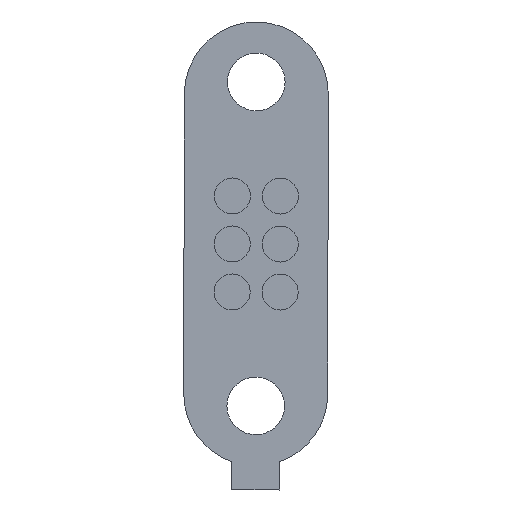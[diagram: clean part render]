
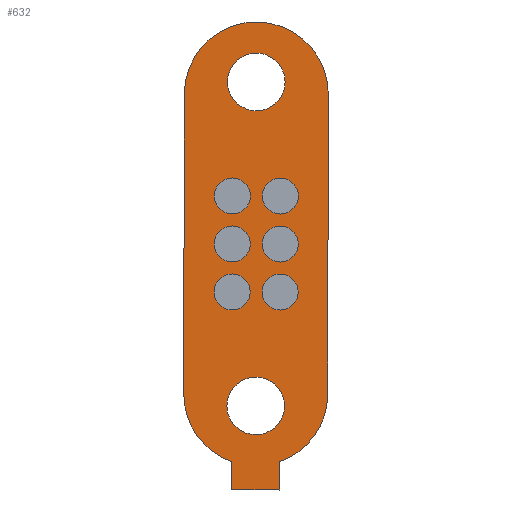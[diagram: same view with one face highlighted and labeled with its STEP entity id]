
A CAD part, left-side view. The second image highlights one B-rep face of the part: STEP entity #632.
In plain terms, the highlighted planar face has unit normal (-1, 0, 0).
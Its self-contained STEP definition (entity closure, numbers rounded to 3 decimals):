
#69=DIRECTION('',(0.,0.002,-1.));
#70=VECTOR('',#69,12.5);
#71=CARTESIAN_POINT('',(-115.498,12.316,200.523));
#72=LINE('',#71,#70);
#73=CARTESIAN_POINT('',(-115.498,9.316,200.517));
#74=DIRECTION('',(1.,0.,0.));
#75=DIRECTION('',(0.,1.,0.002));
#76=AXIS2_PLACEMENT_3D('',#73,#74,#75);
#78=CARTESIAN_POINT('',(-115.498,9.341,188.017));
#79=DIRECTION('',(1.,0.,0.));
#80=DIRECTION('',(0.,-1.,-0.002));
#81=AXIS2_PLACEMENT_3D('',#78,#79,#80);
#83=DIRECTION('',(0.,-0.002,1.));
#84=VECTOR('',#83,1.172);
#85=CARTESIAN_POINT('',(-115.498,10.348,184.019));
#86=LINE('',#85,#84);
#87=CARTESIAN_POINT('',(-115.498,9.341,188.017));
#88=DIRECTION('',(1.,0.,0.));
#89=DIRECTION('',(0.,0.335,-0.942));
#90=AXIS2_PLACEMENT_3D('',#87,#88,#89);
#92=CARTESIAN_POINT('',(-115.498,9.342,187.517));
#93=DIRECTION('',(-1.,0.,0.));
#94=DIRECTION('',(0.,0.002,-1.));
#95=AXIS2_PLACEMENT_3D('',#92,#93,#94);
#97=CARTESIAN_POINT('',(-115.498,9.342,187.517));
#98=DIRECTION('',(-1.,0.,0.));
#99=DIRECTION('',(0.,-0.002,1.));
#100=AXIS2_PLACEMENT_3D('',#97,#98,#99);
#102=CARTESIAN_POINT('',(-115.498,9.315,201.017));
#103=DIRECTION('',(-1.,0.,0.));
#104=DIRECTION('',(0.,0.002,-1.));
#105=AXIS2_PLACEMENT_3D('',#102,#103,#104);
#107=CARTESIAN_POINT('',(-115.498,9.315,201.017));
#108=DIRECTION('',(-1.,0.,0.));
#109=DIRECTION('',(0.,-0.002,1.));
#110=AXIS2_PLACEMENT_3D('',#107,#108,#109);
#112=CARTESIAN_POINT('',(-115.498,8.315,196.267));
#113=DIRECTION('',(-1.,0.,0.));
#114=DIRECTION('',(0.,-1.,0.));
#115=AXIS2_PLACEMENT_3D('',#112,#113,#114);
#117=CARTESIAN_POINT('',(-115.498,8.315,196.267));
#118=DIRECTION('',(-1.,0.,0.));
#119=DIRECTION('',(0.,1.,0.));
#120=AXIS2_PLACEMENT_3D('',#117,#118,#119);
#122=CARTESIAN_POINT('',(-115.498,10.315,196.267));
#123=DIRECTION('',(-1.,0.,0.));
#124=DIRECTION('',(0.,-1.,0.));
#125=AXIS2_PLACEMENT_3D('',#122,#123,#124);
#127=CARTESIAN_POINT('',(-115.498,10.315,196.267));
#128=DIRECTION('',(-1.,0.,0.));
#129=DIRECTION('',(0.,1.,0.));
#130=AXIS2_PLACEMENT_3D('',#127,#128,#129);
#132=CARTESIAN_POINT('',(-115.498,8.315,194.267));
#133=DIRECTION('',(-1.,0.,0.));
#134=DIRECTION('',(0.,-1.,0.));
#135=AXIS2_PLACEMENT_3D('',#132,#133,#134);
#137=CARTESIAN_POINT('',(-115.498,8.315,194.267));
#138=DIRECTION('',(-1.,0.,0.));
#139=DIRECTION('',(0.,1.,0.));
#140=AXIS2_PLACEMENT_3D('',#137,#138,#139);
#142=CARTESIAN_POINT('',(-115.498,10.315,194.267));
#143=DIRECTION('',(-1.,0.,0.));
#144=DIRECTION('',(0.,-1.,0.));
#145=AXIS2_PLACEMENT_3D('',#142,#143,#144);
#147=CARTESIAN_POINT('',(-115.498,10.315,194.267));
#148=DIRECTION('',(-1.,0.,0.));
#149=DIRECTION('',(0.,1.,0.));
#150=AXIS2_PLACEMENT_3D('',#147,#148,#149);
#152=CARTESIAN_POINT('',(-115.498,8.315,192.267));
#153=DIRECTION('',(-1.,0.,0.));
#154=DIRECTION('',(0.,-1.,0.));
#155=AXIS2_PLACEMENT_3D('',#152,#153,#154);
#157=CARTESIAN_POINT('',(-115.498,8.315,192.267));
#158=DIRECTION('',(-1.,0.,0.));
#159=DIRECTION('',(0.,1.,0.));
#160=AXIS2_PLACEMENT_3D('',#157,#158,#159);
#162=CARTESIAN_POINT('',(-115.498,10.315,192.267));
#163=DIRECTION('',(-1.,0.,0.));
#164=DIRECTION('',(0.,-1.,0.));
#165=AXIS2_PLACEMENT_3D('',#162,#163,#164);
#167=CARTESIAN_POINT('',(-115.498,10.315,192.267));
#168=DIRECTION('',(-1.,0.,0.));
#169=DIRECTION('',(0.,1.,0.));
#170=AXIS2_PLACEMENT_3D('',#167,#168,#169);
#207=DIRECTION('',(0.,-0.002,1.));
#208=VECTOR('',#207,12.5);
#209=CARTESIAN_POINT('',(-115.498,6.341,188.011));
#210=LINE('',#209,#208);
#287=DIRECTION('',(0.,-1.,-0.002));
#288=VECTOR('',#287,2.);
#289=CARTESIAN_POINT('',(-115.498,10.348,184.019));
#290=LINE('',#289,#288);
#299=DIRECTION('',(0.,-0.002,1.));
#300=VECTOR('',#299,1.172);
#301=CARTESIAN_POINT('',(-115.498,8.348,184.015));
#302=LINE('',#301,#300);
#407=CARTESIAN_POINT('',(-115.498,12.316,200.523));
#408=CARTESIAN_POINT('',(-115.498,12.341,188.023));
#409=VERTEX_POINT('',#407);
#410=VERTEX_POINT('',#408);
#419=CARTESIAN_POINT('',(-115.498,6.316,200.511));
#420=VERTEX_POINT('',#419);
#421=CARTESIAN_POINT('',(-115.498,6.341,188.011));
#422=VERTEX_POINT('',#421);
#423=CARTESIAN_POINT('',(-115.498,8.346,185.187));
#424=VERTEX_POINT('',#423);
#425=CARTESIAN_POINT('',(-115.498,8.348,184.015));
#426=VERTEX_POINT('',#425);
#427=CARTESIAN_POINT('',(-115.498,10.348,184.019));
#428=VERTEX_POINT('',#427);
#429=CARTESIAN_POINT('',(-115.498,10.346,185.191));
#430=VERTEX_POINT('',#429);
#431=CARTESIAN_POINT('',(-115.498,9.344,186.317));
#432=CARTESIAN_POINT('',(-115.498,9.339,188.717));
#433=VERTEX_POINT('',#431);
#434=VERTEX_POINT('',#432);
#435=CARTESIAN_POINT('',(-115.498,9.318,199.817));
#436=CARTESIAN_POINT('',(-115.498,9.313,202.217));
#437=VERTEX_POINT('',#435);
#438=VERTEX_POINT('',#436);
#439=CARTESIAN_POINT('',(-115.498,7.665,196.267));
#440=CARTESIAN_POINT('',(-115.498,8.965,196.267));
#441=VERTEX_POINT('',#439);
#442=VERTEX_POINT('',#440);
#443=CARTESIAN_POINT('',(-115.498,9.665,196.267));
#444=CARTESIAN_POINT('',(-115.498,10.965,196.267));
#445=VERTEX_POINT('',#443);
#446=VERTEX_POINT('',#444);
#447=CARTESIAN_POINT('',(-115.498,7.665,194.267));
#448=CARTESIAN_POINT('',(-115.498,8.965,194.267));
#449=VERTEX_POINT('',#447);
#450=VERTEX_POINT('',#448);
#451=CARTESIAN_POINT('',(-115.498,9.665,194.267));
#452=CARTESIAN_POINT('',(-115.498,10.965,194.267));
#453=VERTEX_POINT('',#451);
#454=VERTEX_POINT('',#452);
#455=CARTESIAN_POINT('',(-115.498,7.665,192.267));
#456=CARTESIAN_POINT('',(-115.498,8.965,192.267));
#457=VERTEX_POINT('',#455);
#458=VERTEX_POINT('',#456);
#459=CARTESIAN_POINT('',(-115.498,9.665,192.267));
#460=CARTESIAN_POINT('',(-115.498,10.965,192.267));
#461=VERTEX_POINT('',#459);
#462=VERTEX_POINT('',#460);
#562=CARTESIAN_POINT('',(-115.498,9.33,193.767));
#563=DIRECTION('',(1.,0.,0.));
#564=DIRECTION('',(0.,0.002,-1.));
#565=AXIS2_PLACEMENT_3D('',#562,#563,#564);
#566=PLANE('',#565);
#567=ORIENTED_EDGE('',*,*,#544,.F.);
#569=ORIENTED_EDGE('',*,*,#568,.T.);
#571=ORIENTED_EDGE('',*,*,#570,.F.);
#573=ORIENTED_EDGE('',*,*,#572,.T.);
#575=ORIENTED_EDGE('',*,*,#574,.F.);
#577=ORIENTED_EDGE('',*,*,#576,.F.);
#579=ORIENTED_EDGE('',*,*,#578,.T.);
#581=ORIENTED_EDGE('',*,*,#580,.T.);
#582=EDGE_LOOP('',(#567,#569,#571,#573,#575,#577,#579,#581));
#583=FACE_OUTER_BOUND('',#582,.F.);
#585=ORIENTED_EDGE('',*,*,#584,.T.);
#587=ORIENTED_EDGE('',*,*,#586,.T.);
#588=EDGE_LOOP('',(#585,#587));
#589=FACE_BOUND('',#588,.F.);
#591=ORIENTED_EDGE('',*,*,#590,.T.);
#593=ORIENTED_EDGE('',*,*,#592,.T.);
#594=EDGE_LOOP('',(#591,#593));
#595=FACE_BOUND('',#594,.F.);
#597=ORIENTED_EDGE('',*,*,#596,.T.);
#599=ORIENTED_EDGE('',*,*,#598,.T.);
#600=EDGE_LOOP('',(#597,#599));
#601=FACE_BOUND('',#600,.F.);
#603=ORIENTED_EDGE('',*,*,#602,.T.);
#605=ORIENTED_EDGE('',*,*,#604,.T.);
#606=EDGE_LOOP('',(#603,#605));
#607=FACE_BOUND('',#606,.F.);
#609=ORIENTED_EDGE('',*,*,#608,.T.);
#611=ORIENTED_EDGE('',*,*,#610,.T.);
#612=EDGE_LOOP('',(#609,#611));
#613=FACE_BOUND('',#612,.F.);
#615=ORIENTED_EDGE('',*,*,#614,.T.);
#617=ORIENTED_EDGE('',*,*,#616,.T.);
#618=EDGE_LOOP('',(#615,#617));
#619=FACE_BOUND('',#618,.F.);
#621=ORIENTED_EDGE('',*,*,#620,.T.);
#623=ORIENTED_EDGE('',*,*,#622,.T.);
#624=EDGE_LOOP('',(#621,#623));
#625=FACE_BOUND('',#624,.F.);
#627=ORIENTED_EDGE('',*,*,#626,.T.);
#629=ORIENTED_EDGE('',*,*,#628,.T.);
#630=EDGE_LOOP('',(#627,#629));
#631=FACE_BOUND('',#630,.F.);
#632=ADVANCED_FACE('',(#583,#589,#595,#601,#607,#613,#619,#625,#631),#566,.F.);
#77=CIRCLE('',#76,3.);
#82=CIRCLE('',#81,3.);
#91=CIRCLE('',#90,3.);
#96=CIRCLE('',#95,1.2);
#101=CIRCLE('',#100,1.2);
#106=CIRCLE('',#105,1.2);
#111=CIRCLE('',#110,1.2);
#116=CIRCLE('',#115,0.65);
#121=CIRCLE('',#120,0.65);
#126=CIRCLE('',#125,0.65);
#131=CIRCLE('',#130,0.65);
#136=CIRCLE('',#135,0.65);
#141=CIRCLE('',#140,0.65);
#146=CIRCLE('',#145,0.65);
#151=CIRCLE('',#150,0.65);
#156=CIRCLE('',#155,0.65);
#161=CIRCLE('',#160,0.65);
#166=CIRCLE('',#165,0.65);
#171=CIRCLE('',#170,0.65);
#544=EDGE_CURVE('',#409,#410,#72,.T.);
#568=EDGE_CURVE('',#409,#420,#77,.T.);
#570=EDGE_CURVE('',#422,#420,#210,.T.);
#572=EDGE_CURVE('',#422,#424,#82,.T.);
#574=EDGE_CURVE('',#426,#424,#302,.T.);
#576=EDGE_CURVE('',#428,#426,#290,.T.);
#578=EDGE_CURVE('',#428,#430,#86,.T.);
#580=EDGE_CURVE('',#430,#410,#91,.T.);
#584=EDGE_CURVE('',#433,#434,#96,.T.);
#586=EDGE_CURVE('',#434,#433,#101,.T.);
#590=EDGE_CURVE('',#437,#438,#106,.T.);
#592=EDGE_CURVE('',#438,#437,#111,.T.);
#596=EDGE_CURVE('',#441,#442,#116,.T.);
#598=EDGE_CURVE('',#442,#441,#121,.T.);
#602=EDGE_CURVE('',#445,#446,#126,.T.);
#604=EDGE_CURVE('',#446,#445,#131,.T.);
#608=EDGE_CURVE('',#449,#450,#136,.T.);
#610=EDGE_CURVE('',#450,#449,#141,.T.);
#614=EDGE_CURVE('',#453,#454,#146,.T.);
#616=EDGE_CURVE('',#454,#453,#151,.T.);
#620=EDGE_CURVE('',#457,#458,#156,.T.);
#622=EDGE_CURVE('',#458,#457,#161,.T.);
#626=EDGE_CURVE('',#461,#462,#166,.T.);
#628=EDGE_CURVE('',#462,#461,#171,.T.);
